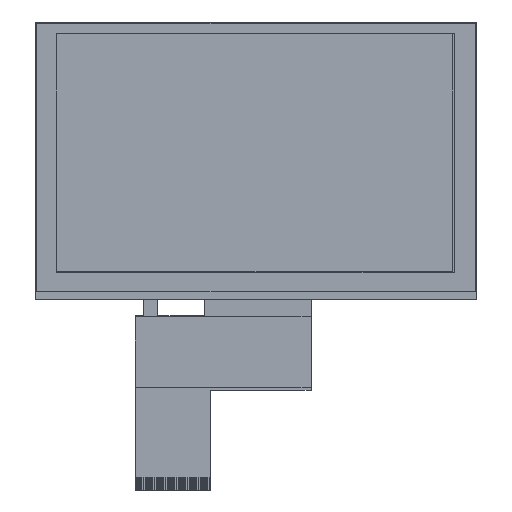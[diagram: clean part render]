
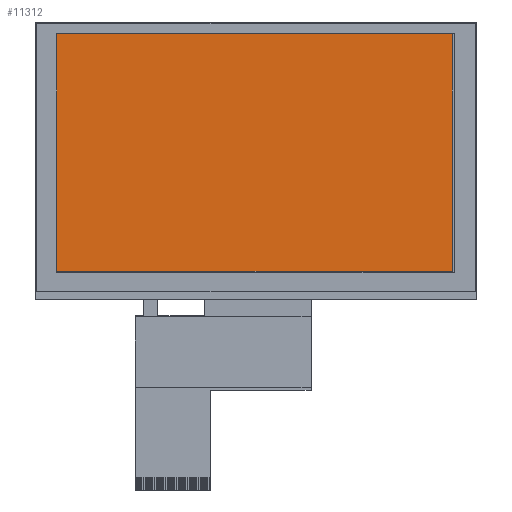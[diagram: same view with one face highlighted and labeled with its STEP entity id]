
A CAD part, top view. The second image highlights one B-rep face of the part: STEP entity #11312.
In plain terms, the highlighted planar face has unit normal (0, 0, 1).
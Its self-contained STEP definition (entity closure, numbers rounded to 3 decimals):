
#202 = LINE ( 'NONE', #2943, #3248 ) ;
#436 = ORIENTED_EDGE ( 'NONE', *, *, #7476, .F. ) ;
#591 = VERTEX_POINT ( 'NONE', #4580 ) ;
#1034 = LINE ( 'NONE', #2040, #7523 ) ;
#1068 = VECTOR ( 'NONE', #1098, 1000. ) ;
#1098 = DIRECTION ( 'NONE',  ( 0., 1., 0. ) ) ;
#1196 = CARTESIAN_POINT ( 'NONE',  ( 0., 0., 1.25 ) ) ;
#1367 = LINE ( 'NONE', #3207, #3518 ) ;
#2014 = EDGE_LOOP ( 'NONE', ( #7084, #436, #5751, #11787 ) ) ;
#2040 = CARTESIAN_POINT ( 'NONE',  ( 54., 0., 1.25 ) ) ;
#2332 = DIRECTION ( 'NONE',  ( -1., 0., 0. ) ) ;
#2943 = CARTESIAN_POINT ( 'NONE',  ( 0., 32.4, 1.25 ) ) ;
#3207 = CARTESIAN_POINT ( 'NONE',  ( 0., -32.4, 1.25 ) ) ;
#3248 = VECTOR ( 'NONE', #8429, 1000. ) ;
#3315 = CARTESIAN_POINT ( 'NONE',  ( -54., -32.4, 1.25 ) ) ;
#3518 = VECTOR ( 'NONE', #2332, 1000. ) ;
#3867 = CARTESIAN_POINT ( 'NONE',  ( 54., -32.4, 1.25 ) ) ;
#3882 = LINE ( 'NONE', #3948, #1068 ) ;
#3948 = CARTESIAN_POINT ( 'NONE',  ( -54., 0., 1.25 ) ) ;
#4049 = DIRECTION ( 'NONE',  ( 1., 0., 0. ) ) ;
#4162 = EDGE_CURVE ( 'NONE', #10135, #591, #3882, .T. ) ;
#4580 = CARTESIAN_POINT ( 'NONE',  ( -54., 32.4, 1.25 ) ) ;
#4907 = DIRECTION ( 'NONE',  ( 0., 0., 1. ) ) ;
#5243 = EDGE_CURVE ( 'NONE', #11758, #7801, #1034, .T. ) ;
#5506 = CARTESIAN_POINT ( 'NONE',  ( 54., 32.4, 1.25 ) ) ;
#5751 = ORIENTED_EDGE ( 'NONE', *, *, #5243, .F. ) ;
#5892 = FACE_OUTER_BOUND ( 'NONE', #2014, .T. ) ;
#6618 = PLANE ( 'NONE',  #11726 ) ;
#7084 = ORIENTED_EDGE ( 'NONE', *, *, #4162, .F. ) ;
#7476 = EDGE_CURVE ( 'NONE', #7801, #10135, #1367, .T. ) ;
#7523 = VECTOR ( 'NONE', #9280, 1000. ) ;
#7801 = VERTEX_POINT ( 'NONE', #3867 ) ;
#8429 = DIRECTION ( 'NONE',  ( 1., 0., 0. ) ) ;
#9280 = DIRECTION ( 'NONE',  ( 0., -1., 0. ) ) ;
#10135 = VERTEX_POINT ( 'NONE', #3315 ) ;
#11312 = ADVANCED_FACE ( 'NONE', ( #5892 ), #6618, .T. ) ;
#11726 = AXIS2_PLACEMENT_3D ( 'NONE', #1196, #4907, #4049 ) ;
#11758 = VERTEX_POINT ( 'NONE', #5506 ) ;
#11787 = ORIENTED_EDGE ( 'NONE', *, *, #11805, .F. ) ;
#11805 = EDGE_CURVE ( 'NONE', #591, #11758, #202, .T. ) ;
